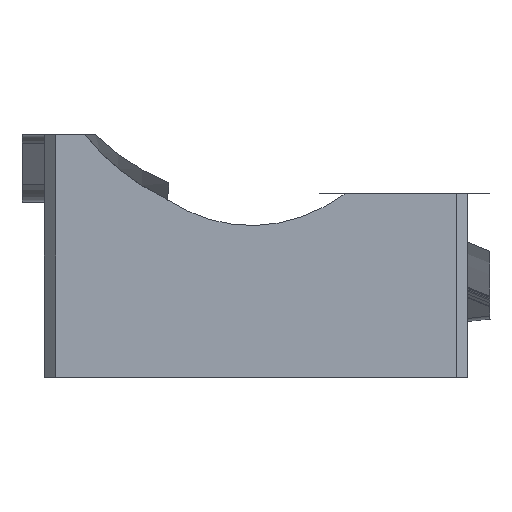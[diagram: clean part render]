
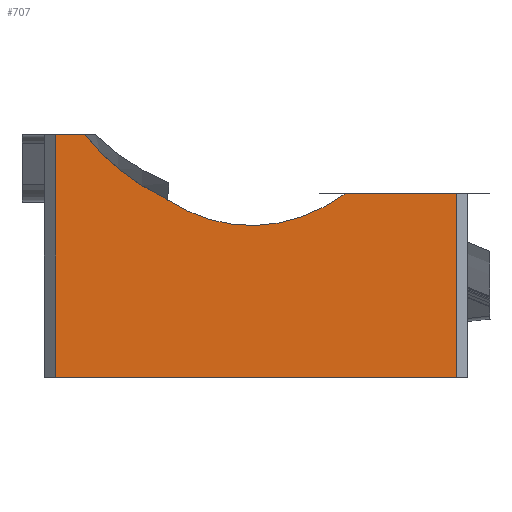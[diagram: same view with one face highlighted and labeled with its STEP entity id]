
A CAD part, left-side view. The second image highlights one B-rep face of the part: STEP entity #707.
In plain terms, the highlighted planar face has unit normal (-1, 0, 0).
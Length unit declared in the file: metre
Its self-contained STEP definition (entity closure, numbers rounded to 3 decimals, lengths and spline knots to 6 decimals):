
#707=ADVANCED_FACE('',(#1609),#1610,.T.);
#1609=FACE_OUTER_BOUND('',#4614,.T.);
#1610=PLANE('',#4615);
#4614=EDGE_LOOP('',(#47802,#47803,#47804,#47805,#47806,#47807,#47808));
#4615=AXIS2_PLACEMENT_3D('',#47809,#47810,#47811);
#47802=ORIENTED_EDGE('',*,*,#48792,.F.);
#47803=ORIENTED_EDGE('',*,*,#48511,.T.);
#47804=ORIENTED_EDGE('',*,*,#48751,.T.);
#47805=ORIENTED_EDGE('',*,*,#48374,.F.);
#47806=ORIENTED_EDGE('',*,*,#48563,.T.);
#47807=ORIENTED_EDGE('',*,*,#48786,.F.);
#47808=ORIENTED_EDGE('',*,*,#48515,.T.);
#47809=CARTESIAN_POINT('',(-0.135,0.125,-0.076));
#47810=DIRECTION('',(-1.0,0.,0.));
#47811=DIRECTION('',(0.,1.0,0.));
#48374=EDGE_CURVE('',#49392,#49383,#49394,.T.);
#48511=EDGE_CURVE('',#49524,#49522,#49525,.T.);
#48515=EDGE_CURVE('',#49531,#49528,#49532,.T.);
#48563=EDGE_CURVE('',#49392,#49590,#49592,.T.);
#48751=EDGE_CURVE('',#49522,#49383,#49632,.T.);
#48786=EDGE_CURVE('',#49531,#49590,#49654,.T.);
#48792=EDGE_CURVE('',#49524,#49528,#49660,.T.);
#49383=VERTEX_POINT('',#51278);
#49392=VERTEX_POINT('',#51321);
#49394=B_SPLINE_CURVE_WITH_KNOTS('',3,(#51324,#51325,#51326,#51327,#51328,#51329,#51330,#51331,#51332,#51333,#51334,#51335,#51336,#51337,#51338,#51339,#51340,#51341,#51342,#51343,#51344,#51345,#51346,#51347,#51348,#51349,#51350,#51351),.UNSPECIFIED.,.F.,.F.,(4,2,2,2,2,2,2,2,2,2,2,2,2,4),(0.0,0.010557,0.021115,0.023754,0.026394,0.031672,0.04223,0.047509,0.052787,0.063345,0.065984,0.068623,0.073902,0.08446),.UNSPECIFIED.);
#49522=VERTEX_POINT('',#52019);
#49524=VERTEX_POINT('',#52022);
#49525=LINE('',#52023,#52024);
#49528=VERTEX_POINT('',#52028);
#49531=VERTEX_POINT('',#52032);
#49532=LINE('',#52033,#52034);
#49590=VERTEX_POINT('',#52356);
#49592=B_SPLINE_CURVE_WITH_KNOTS('',3,(#52371,#52372,#52373,#52374,#52375,#52376,#52377,#52378,#52379,#52380,#52381,#52382,#52383,#52384,#52385,#52386,#52387,#52388,#52389,#52390),.UNSPECIFIED.,.F.,.F.,(4,2,2,2,2,2,2,2,2,4),(0.,0.002925,0.005851,0.007313,0.008776,0.011701,0.023402,0.035103,0.040954,0.046804),.UNSPECIFIED.);
#49632=LINE('',#52451,#52452);
#49654=LINE('',#52483,#52484);
#49660=LINE('',#52492,#52493);
#51278=CARTESIAN_POINT('',(-0.135,0.053978,-0.026));
#51321=CARTESIAN_POINT('',(-0.135,0.133317,-0.028917));
#51324=CARTESIAN_POINT('',(-0.135,0.133317,-0.028917));
#51325=CARTESIAN_POINT('',(-0.135,0.130353,-0.030897));
#51326=CARTESIAN_POINT('',(-0.135,0.12728,-0.03264));
#51327=CARTESIAN_POINT('',(-0.135,0.120911,-0.035636));
#51328=CARTESIAN_POINT('',(-0.135,0.117615,-0.036891));
#51329=CARTESIAN_POINT('',(-0.135,0.113345,-0.03813));
#51330=CARTESIAN_POINT('',(-0.135,0.112482,-0.038362));
#51331=CARTESIAN_POINT('',(-0.135,0.110755,-0.038787));
#51332=CARTESIAN_POINT('',(-0.135,0.10989,-0.038982));
#51333=CARTESIAN_POINT('',(-0.135,0.10729,-0.039512));
#51334=CARTESIAN_POINT('',(-0.135,0.105551,-0.039792));
#51335=CARTESIAN_POINT('',(-0.135,0.100313,-0.04042));
#51336=CARTESIAN_POINT('',(-0.135,0.096797,-0.040554));
#51337=CARTESIAN_POINT('',(-0.135,0.091485,-0.04032));
#51338=CARTESIAN_POINT('',(-0.135,0.089701,-0.040168));
#51339=CARTESIAN_POINT('',(-0.135,0.086179,-0.039724));
#51340=CARTESIAN_POINT('',(-0.135,0.084436,-0.039433));
#51341=CARTESIAN_POINT('',(-0.135,0.079258,-0.038357));
#51342=CARTESIAN_POINT('',(-0.135,0.075875,-0.037373));
#51343=CARTESIAN_POINT('',(-0.135,0.071726,-0.035823));
#51344=CARTESIAN_POINT('',(-0.135,0.070901,-0.035497));
#51345=CARTESIAN_POINT('',(-0.135,0.069258,-0.034813));
#51346=CARTESIAN_POINT('',(-0.135,0.068441,-0.034455));
#51347=CARTESIAN_POINT('',(-0.135,0.06602,-0.033342));
#51348=CARTESIAN_POINT('',(-0.135,0.064439,-0.032545));
#51349=CARTESIAN_POINT('',(-0.135,0.059795,-0.029999));
#51350=CARTESIAN_POINT('',(-0.135,0.056827,-0.028095));
#51351=CARTESIAN_POINT('',(-0.135,0.053978,-0.026));
#52019=CARTESIAN_POINT('',(-0.135,0.005,-0.026));
#52022=CARTESIAN_POINT('',(-0.135,0.005,-0.108));
#52023=CARTESIAN_POINT('',(-0.135,0.005,-0.076));
#52024=VECTOR('',#53629,1.0);
#52028=CARTESIAN_POINT('',(-0.135,0.183,-0.108));
#52032=CARTESIAN_POINT('',(-0.135,0.183,0.));
#52033=CARTESIAN_POINT('',(-0.135,0.183,-0.076));
#52034=VECTOR('',#53632,1.0);
#52356=CARTESIAN_POINT('',(-0.135,0.170107,0.));
#52371=CARTESIAN_POINT('',(-0.135,0.133317,-0.028917));
#52372=CARTESIAN_POINT('',(-0.135,0.13413,-0.028375));
#52373=CARTESIAN_POINT('',(-0.135,0.134998,-0.027905));
#52374=CARTESIAN_POINT('',(-0.135,0.136784,-0.027032));
#52375=CARTESIAN_POINT('',(-0.135,0.137701,-0.026627));
#52376=CARTESIAN_POINT('',(-0.135,0.139054,-0.02599));
#52377=CARTESIAN_POINT('',(-0.135,0.139501,-0.025773));
#52378=CARTESIAN_POINT('',(-0.135,0.140378,-0.025315));
#52379=CARTESIAN_POINT('',(-0.135,0.140806,-0.025072));
#52380=CARTESIAN_POINT('',(-0.135,0.142084,-0.024337));
#52381=CARTESIAN_POINT('',(-0.135,0.142928,-0.023836));
#52382=CARTESIAN_POINT('',(-0.135,0.147105,-0.021274));
#52383=CARTESIAN_POINT('',(-0.135,0.15031,-0.019045));
#52384=CARTESIAN_POINT('',(-0.135,0.156451,-0.014234));
#52385=CARTESIAN_POINT('',(-0.135,0.159387,-0.011651));
#52386=CARTESIAN_POINT('',(-0.135,0.163578,-0.007497));
#52387=CARTESIAN_POINT('',(-0.135,0.164939,-0.006065));
#52388=CARTESIAN_POINT('',(-0.135,0.167587,-0.003102));
#52389=CARTESIAN_POINT('',(-0.135,0.168875,-0.001568));
#52390=CARTESIAN_POINT('',(-0.135,0.170107,0.));
#52451=CARTESIAN_POINT('',(-0.135,0.1175,-0.026));
#52452=VECTOR('',#53658,1.0);
#52483=CARTESIAN_POINT('',(-0.135,0.1175,0.));
#52484=VECTOR('',#53663,1.0);
#52492=CARTESIAN_POINT('',(-0.135,0.125,-0.108));
#52493=VECTOR('',#53666,1.0);
#53629=DIRECTION('',(0.,0.,1.0));
#53632=DIRECTION('',(0.,0.,-1.0));
#53658=DIRECTION('',(0.,1.0,0.));
#53663=DIRECTION('',(0.,-1.0,0.));
#53666=DIRECTION('',(0.,1.0,0.));
